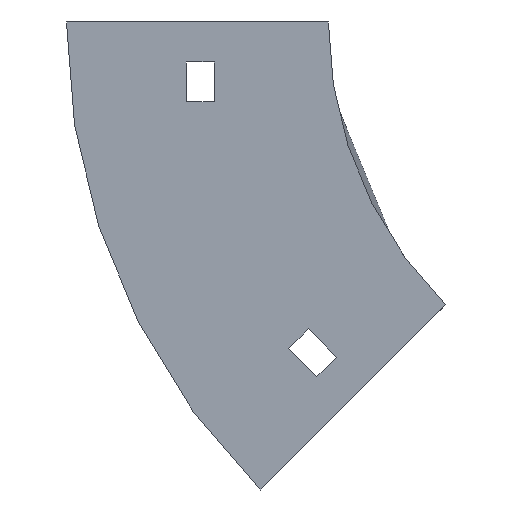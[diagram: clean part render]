
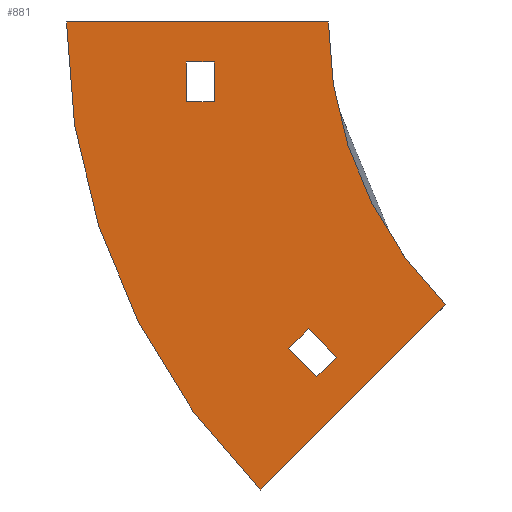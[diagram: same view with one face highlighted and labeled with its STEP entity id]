
A CAD part, left-side view. The second image highlights one B-rep face of the part: STEP entity #881.
In plain terms, the highlighted planar face has unit normal (-1, 0, 0).
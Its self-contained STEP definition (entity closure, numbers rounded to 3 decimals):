
#10 = CARTESIAN_POINT ( 'NONE',  ( -202., -100., 0. ) ) ;
#14 = CIRCLE ( 'NONE', #1123, 100. ) ;
#15 = EDGE_CURVE ( 'NONE', #898, #400, #1010, .T. ) ;
#27 = ORIENTED_EDGE ( 'NONE', *, *, #136, .F. ) ;
#34 = VERTEX_POINT ( 'NONE', #922 ) ;
#55 = CARTESIAN_POINT ( 'NONE',  ( -202., -100., 0. ) ) ;
#70 = DIRECTION ( 'NONE',  ( 0., 0.707, 0.707 ) ) ;
#79 = DIRECTION ( 'NONE',  ( 0., -0.707, -0.707 ) ) ;
#80 = CARTESIAN_POINT ( 'NONE',  ( -202., 2.884, -88.742 ) ) ;
#84 = VERTEX_POINT ( 'NONE', #394 ) ;
#87 = EDGE_CURVE ( 'NONE', #95, #898, #666, .T. ) ;
#93 = DIRECTION ( 'NONE',  ( -1., 0., 0. ) ) ;
#94 = VERTEX_POINT ( 'NONE', #147 ) ;
#95 = VERTEX_POINT ( 'NONE', #764 ) ;
#136 = EDGE_CURVE ( 'NONE', #1067, #84, #492, .T. ) ;
#147 = CARTESIAN_POINT ( 'NONE',  ( -202., 35.5, -10. ) ) ;
#152 = CARTESIAN_POINT ( 'NONE',  ( -202., 5.005, -76.721 ) ) ;
#156 = DIRECTION ( 'NONE',  ( 0., 0., 1. ) ) ;
#157 = VERTEX_POINT ( 'NONE', #152 ) ;
#168 = DIRECTION ( 'NONE',  ( -1., 0., 0. ) ) ;
#205 = EDGE_LOOP ( 'NONE', ( #843, #788, #27, #984 ) ) ;
#222 = EDGE_CURVE ( 'NONE', #831, #1129, #957, .T. ) ;
#227 = CARTESIAN_POINT ( 'NONE',  ( -202., 28.5, -10. ) ) ;
#232 = CARTESIAN_POINT ( 'NONE',  ( -202., 17.026, -117.026 ) ) ;
#236 = VECTOR ( 'NONE', #1030, 1000. ) ;
#254 = AXIS2_PLACEMENT_3D ( 'NONE', #10, #93, #156 ) ;
#272 = CARTESIAN_POINT ( 'NONE',  ( -202., 28.5, -20. ) ) ;
#273 = LINE ( 'NONE', #979, #481 ) ;
#275 = EDGE_CURVE ( 'NONE', #84, #586, #1091, .T. ) ;
#337 = DIRECTION ( 'NONE',  ( 0., 0., 1. ) ) ;
#347 = ORIENTED_EDGE ( 'NONE', *, *, #222, .F. ) ;
#353 = PLANE ( 'NONE',  #254 ) ;
#354 = CARTESIAN_POINT ( 'NONE',  ( -202., 9.955, -81.671 ) ) ;
#366 = CARTESIAN_POINT ( 'NONE',  ( -202., 35.5, -20. ) ) ;
#383 = CARTESIAN_POINT ( 'NONE',  ( -202., 9.955, -81.671 ) ) ;
#394 = CARTESIAN_POINT ( 'NONE',  ( -202., 65.5, 0. ) ) ;
#396 = VECTOR ( 'NONE', #654, 1000. ) ;
#400 = VERTEX_POINT ( 'NONE', #675 ) ;
#413 = ORIENTED_EDGE ( 'NONE', *, *, #15, .T. ) ;
#421 = EDGE_CURVE ( 'NONE', #400, #94, #862, .T. ) ;
#443 = EDGE_LOOP ( 'NONE', ( #1034, #569, #413, #993 ) ) ;
#457 = VECTOR ( 'NONE', #1096, 1000. ) ;
#481 = VECTOR ( 'NONE', #564, 1000. ) ;
#492 = CIRCLE ( 'NONE', #1053, 165.5 ) ;
#502 = ORIENTED_EDGE ( 'NONE', *, *, #1039, .F. ) ;
#522 = ORIENTED_EDGE ( 'NONE', *, *, #583, .F. ) ;
#535 = VECTOR ( 'NONE', #749, 1000. ) ;
#536 = FACE_BOUND ( 'NONE', #595, .T. ) ;
#564 = DIRECTION ( 'NONE',  ( 0., 0.707, -0.707 ) ) ;
#567 = CARTESIAN_POINT ( 'NONE',  ( -202., -29.289, -70.711 ) ) ;
#569 = ORIENTED_EDGE ( 'NONE', *, *, #87, .T. ) ;
#583 = EDGE_CURVE ( 'NONE', #34, #157, #601, .T. ) ;
#586 = VERTEX_POINT ( 'NONE', #883 ) ;
#595 = EDGE_LOOP ( 'NONE', ( #522, #1119, #347, #502 ) ) ;
#601 = LINE ( 'NONE', #1138, #824 ) ;
#603 = FACE_BOUND ( 'NONE', #443, .T. ) ;
#612 = LINE ( 'NONE', #773, #236 ) ;
#654 = DIRECTION ( 'NONE',  ( 0., 1., 0. ) ) ;
#666 = LINE ( 'NONE', #227, #1121 ) ;
#668 = EDGE_CURVE ( 'NONE', #1025, #1067, #273, .T. ) ;
#675 = CARTESIAN_POINT ( 'NONE',  ( -202., 35.5, -20. ) ) ;
#679 = DIRECTION ( 'NONE',  ( 0., 0., 1. ) ) ;
#747 = EDGE_CURVE ( 'NONE', #586, #1025, #14, .T. ) ;
#749 = DIRECTION ( 'NONE',  ( 0., 0.707, -0.707 ) ) ;
#756 = EDGE_CURVE ( 'NONE', #94, #95, #612, .T. ) ;
#757 = DIRECTION ( 'NONE',  ( 0., 0., -1. ) ) ;
#760 = VECTOR ( 'NONE', #679, 1000. ) ;
#764 = CARTESIAN_POINT ( 'NONE',  ( -202., 28.5, -10. ) ) ;
#773 = CARTESIAN_POINT ( 'NONE',  ( -202., 35.5, -10. ) ) ;
#785 = CARTESIAN_POINT ( 'NONE',  ( -202., 35.5, -10. ) ) ;
#788 = ORIENTED_EDGE ( 'NONE', *, *, #275, .F. ) ;
#824 = VECTOR ( 'NONE', #70, 1000. ) ;
#831 = VERTEX_POINT ( 'NONE', #354 ) ;
#843 = ORIENTED_EDGE ( 'NONE', *, *, #747, .F. ) ;
#862 = LINE ( 'NONE', #785, #760 ) ;
#878 = CARTESIAN_POINT ( 'NONE',  ( -202., 2.884, -88.742 ) ) ;
#881 = ADVANCED_FACE ( 'NONE', ( #603, #953, #536 ), #353, .T. ) ;
#883 = CARTESIAN_POINT ( 'NONE',  ( -202., 0., 0. ) ) ;
#898 = VERTEX_POINT ( 'NONE', #272 ) ;
#916 = LINE ( 'NONE', #383, #535 ) ;
#922 = CARTESIAN_POINT ( 'NONE',  ( -202., -2.066, -83.792 ) ) ;
#923 = CARTESIAN_POINT ( 'NONE',  ( -202., 65.5, 0. ) ) ;
#926 = VECTOR ( 'NONE', #940, 1000. ) ;
#940 = DIRECTION ( 'NONE',  ( 0., -0.707, 0.707 ) ) ;
#947 = CARTESIAN_POINT ( 'NONE',  ( -202., 2.884, -88.742 ) ) ;
#953 = FACE_OUTER_BOUND ( 'NONE', #205, .T. ) ;
#957 = LINE ( 'NONE', #878, #1103 ) ;
#979 = CARTESIAN_POINT ( 'NONE',  ( -202., -29.289, -70.711 ) ) ;
#984 = ORIENTED_EDGE ( 'NONE', *, *, #668, .F. ) ;
#993 = ORIENTED_EDGE ( 'NONE', *, *, #421, .T. ) ;
#1010 = LINE ( 'NONE', #366, #396 ) ;
#1015 = CARTESIAN_POINT ( 'NONE',  ( -202., -100., 0. ) ) ;
#1020 = DIRECTION ( 'NONE',  ( 0., 0., 1. ) ) ;
#1025 = VERTEX_POINT ( 'NONE', #567 ) ;
#1030 = DIRECTION ( 'NONE',  ( 0., -1., 0. ) ) ;
#1034 = ORIENTED_EDGE ( 'NONE', *, *, #756, .T. ) ;
#1036 = LINE ( 'NONE', #80, #926 ) ;
#1039 = EDGE_CURVE ( 'NONE', #157, #831, #916, .T. ) ;
#1053 = AXIS2_PLACEMENT_3D ( 'NONE', #55, #1109, #1020 ) ;
#1065 = EDGE_CURVE ( 'NONE', #1129, #34, #1036, .T. ) ;
#1067 = VERTEX_POINT ( 'NONE', #232 ) ;
#1091 = LINE ( 'NONE', #923, #457 ) ;
#1096 = DIRECTION ( 'NONE',  ( 0., -1., 0. ) ) ;
#1103 = VECTOR ( 'NONE', #79, 1000. ) ;
#1109 = DIRECTION ( 'NONE',  ( 1., 0., 0. ) ) ;
#1119 = ORIENTED_EDGE ( 'NONE', *, *, #1065, .F. ) ;
#1121 = VECTOR ( 'NONE', #757, 1000. ) ;
#1123 = AXIS2_PLACEMENT_3D ( 'NONE', #1015, #168, #337 ) ;
#1129 = VERTEX_POINT ( 'NONE', #947 ) ;
#1138 = CARTESIAN_POINT ( 'NONE',  ( -202., -2.066, -83.792 ) ) ;
